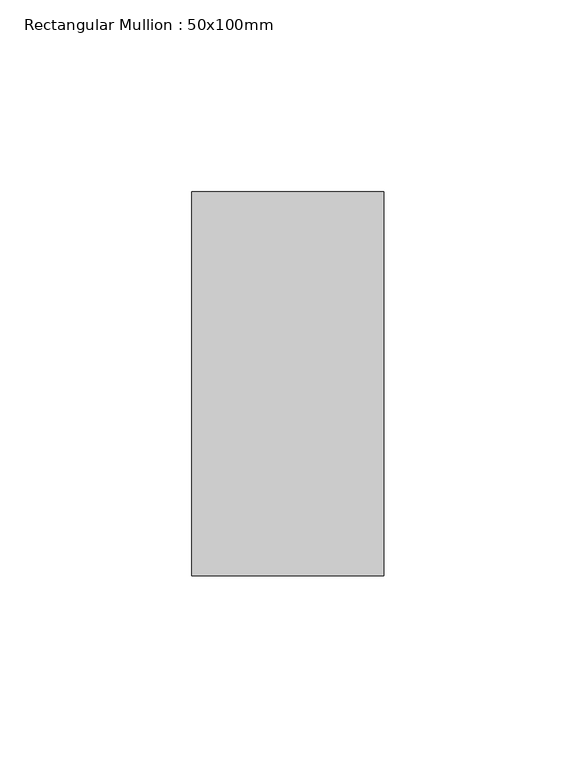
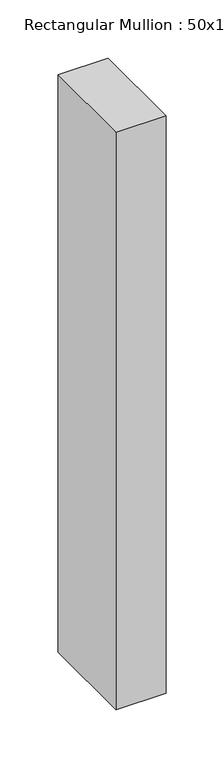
"""IFC4 building model written with IfcOpenShell, lengths in millimetres: member geometry, Rectangular Mullion : 50x100mm."""

from ifc_helpers import new_model, si_unit, frame, origin, place, context, project, spatial, polyline, outline, extrude, source, transform, mapped, element, save


def rectangular_mullion_50x100mm_01051aad(model_context):
    return source(origin(), model_context, "Body", "SweptSolid", [
        extrude(outline(polyline([(0.0, 50.0), (0.0, -50.0), (-50.0, -50.0), (-50.0, 50.0), (0.0, 50.0)])), frame((0.0, 0.0, -607.3359738), z_axis=(0.0, 0.0, 1.0), x_axis=(1.0, 0.0, 0.0)), (0.0, 0.0, 1.0), 607.3359738),
    ])


if __name__ == "__main__":
    model = new_model("IFC4")
    model_context = context("Model", 3, world=origin())
    ifc_project = project(units=[si_unit("LENGTHUNIT", "METRE", prefix="MILLI")], contexts=[model_context])
    site = spatial("IfcSite", under=ifc_project)
    building = spatial("IfcBuilding", under=site)
    placement = place(None, origin())
    rectangular_mullion_50x100mm_shape = rectangular_mullion_50x100mm_01051aad(model_context)
    element("IfcMember", 1, ObjectType="Rectangular Mullion : 50x100mm", at=placement, inside=building, context=model_context, shape_type="MappedRepresentation", body=[
        mapped(rectangular_mullion_50x100mm_shape, transform((0.0, 0.0, 0.0), x_axis=(1.0, 0.0, 0.0), y_axis=(0.0, 1.0, 0.0), z_axis=(0.0, 0.0, 1.0))),
    ])
    save(model, "model.ifc")
